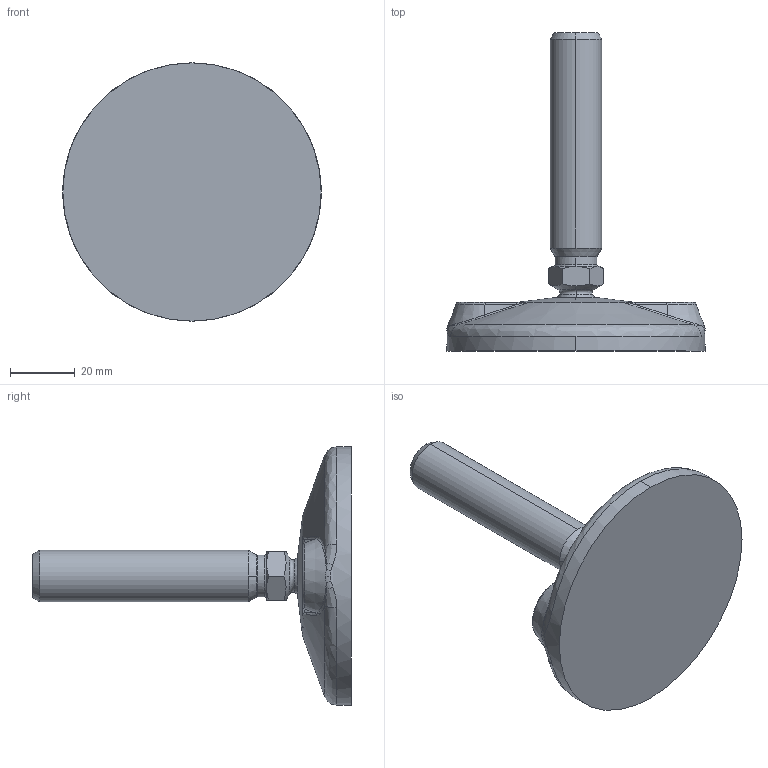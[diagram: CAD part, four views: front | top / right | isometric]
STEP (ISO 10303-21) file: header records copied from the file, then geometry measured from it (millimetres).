
FILE_DESCRIPTION (( 'STEP AP203' ), '1' );
FILE_NAME ('J534892 Adjustable foot M16x97 d80 SS (01-06-2021).STEP', '2021-06-01T06:15:02', ( '' ), ( '' ), 'SwSTEP 2.0', 'SolidWorks 2020', '' );
FILE_SCHEMA (( 'CONFIG_CONTROL_DESIGN' ));
Length unit declared in the file: millimetre
Products named in the file (1): J534892 Adjustable foot M16x97 d80 SS (01-06-2021)
Bounding box: 80 x 98.6 x 80 mm (x, y, z)
Volume: 77344.8 mm3; surface area: 16566.1 mm2
Topology: 1 solids, 1 shells, 108 faces, 268 edges, 160 vertices
Faces by surface type: bspline 60, cone 20, plane 16, cylinder 12
Entity records: 5314 total; most frequent: CARTESIAN_POINT 3231, ORIENTED_EDGE 528, DIRECTION 290, EDGE_CURVE 264, VERTEX_POINT 160, AXIS2_PLACEMENT_3D 127, EDGE_LOOP 110, ADVANCED_FACE 108
